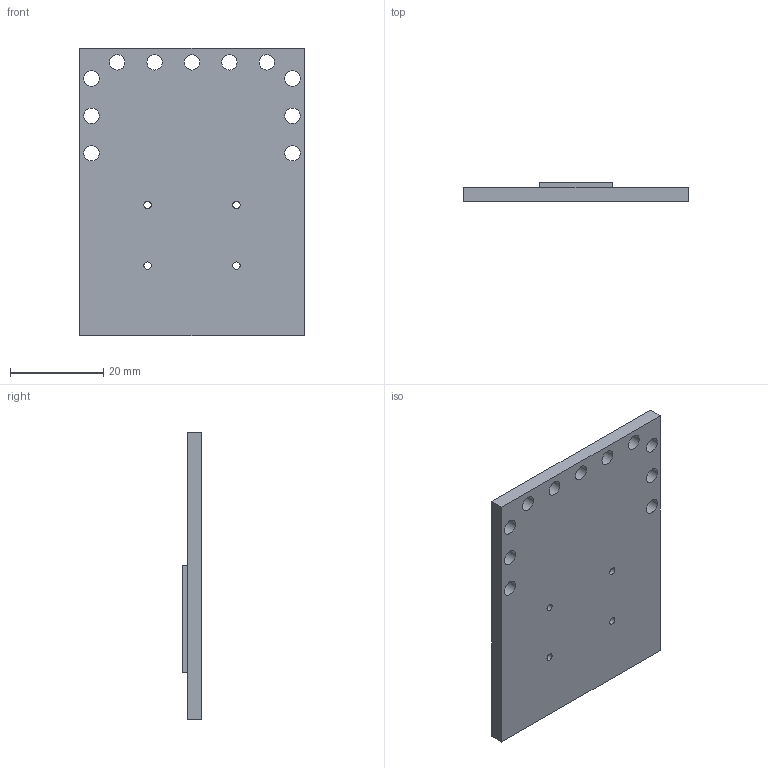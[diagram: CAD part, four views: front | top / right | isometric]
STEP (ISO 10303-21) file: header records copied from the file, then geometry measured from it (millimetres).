
FILE_DESCRIPTION(/* description */ (''),/* implementation_level */ '2;1');
FILE_NAME(/* name */ 'D:\TIQC Lab\Ba冷阱系统资料\四楼低温一体化Ba模型文件\加工\2022 11批次\【不锈钢】点焊holder【加工2个】.stp',/* time_stamp */ '2022-11-05T18:51:10+08:00',/* author */ ('guo'),/* organization */ (''),/* preprocessor_version */ 'ST-DEVELOPER v18',/* originating_system */ 'Autodesk Inventor 2020',/* authorisation */ '');
FILE_SCHEMA (('AUTOMOTIVE_DESIGN { 1 0 10303 214 3 1 1 }'));
Length unit declared in the file: millimetre
Products named in the file (1): 点焊holder
Bounding box: 48 x 4.1 x 61.5 mm (x, y, z)
Volume: 7402.6 mm3; surface area: 7153.3 mm2
Topology: 1 solids, 1 shells, 42 faces, 147 edges, 108 vertices
Faces by surface type: plane 27, cylinder 15
Full cylindrical faces by diameter (mm): 1.567 x4, 3.3 x11
Entity records: 1761 total; most frequent: CARTESIAN_POINT 298, ORIENTED_EDGE 294, DIRECTION 293, EDGE_CURVE 147, VERTEX_POINT 108, AXIS2_PLACEMENT_3D 103, LINE 87, VECTOR 87
